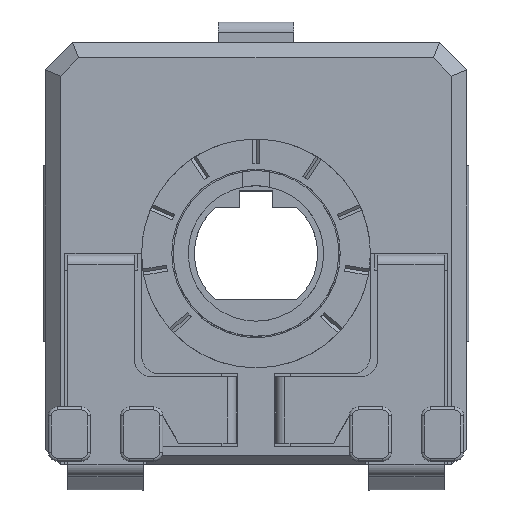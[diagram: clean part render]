
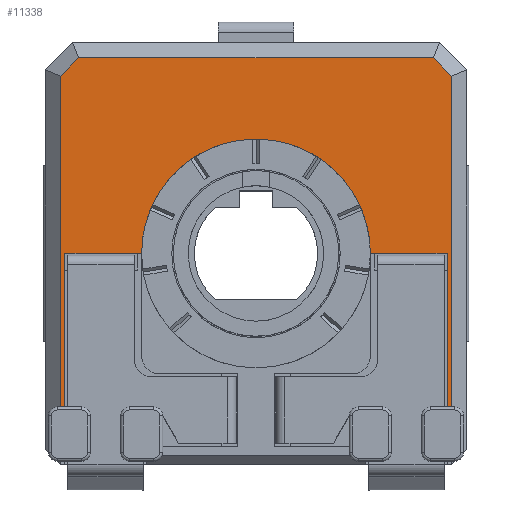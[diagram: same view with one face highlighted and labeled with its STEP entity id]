
A CAD part, top view. The second image highlights one B-rep face of the part: STEP entity #11338.
In plain terms, the highlighted planar face has unit normal (0, 0, 1).
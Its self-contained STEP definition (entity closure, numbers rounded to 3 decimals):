
#476=CIRCLE('',#12154,3.8);
#980=FACE_OUTER_BOUND('',#1561,.T.);
#1561=EDGE_LOOP('',(#9568,#9569,#9570,#9571,#9572,#9573,#9574,#9575,#9576,
#9577,#9578,#9579));
#2018=LINE('',#16238,#3305);
#2086=LINE('',#16491,#3373);
#2326=LINE('',#17230,#3613);
#2329=LINE('',#17235,#3616);
#2554=LINE('',#17795,#3841);
#2587=LINE('',#17922,#3874);
#2810=LINE('',#18469,#4097);
#2811=LINE('',#18472,#4098);
#2812=LINE('',#18473,#4099);
#2813=LINE('',#18476,#4100);
#2814=LINE('',#18477,#4101);
#3305=VECTOR('',#13074,10.);
#3373=VECTOR('',#13356,10.);
#3613=VECTOR('',#13878,10.);
#3616=VECTOR('',#13883,10.);
#3841=VECTOR('',#14256,10.);
#3874=VECTOR('',#14331,10.);
#4097=VECTOR('',#14848,10.);
#4098=VECTOR('',#14851,10.);
#4099=VECTOR('',#14852,10.);
#4100=VECTOR('',#14855,10.);
#4101=VECTOR('',#14856,10.);
#4520=VERTEX_POINT('',#16046);
#4575=VERTEX_POINT('',#16237);
#4652=VERTEX_POINT('',#16488);
#4653=VERTEX_POINT('',#16490);
#4700=VERTEX_POINT('',#16644);
#4701=VERTEX_POINT('',#16646);
#4854=VERTEX_POINT('',#17226);
#4855=VERTEX_POINT('',#17228);
#5020=VERTEX_POINT('',#17791);
#5046=VERTEX_POINT('',#17921);
#5177=VERTEX_POINT('',#18471);
#5178=VERTEX_POINT('',#18475);
#5729=EDGE_CURVE('',#4575,#4520,#2018,.T.);
#5855=EDGE_CURVE('',#4653,#4652,#2086,.T.);
#6159=EDGE_CURVE('',#4855,#4854,#2326,.T.);
#6162=EDGE_CURVE('',#4854,#4652,#2329,.T.);
#6408=EDGE_CURVE('',#4575,#5020,#2554,.T.);
#6453=EDGE_CURVE('',#5020,#5046,#2587,.T.);
#6703=EDGE_CURVE('',#5046,#4855,#2810,.T.);
#6704=EDGE_CURVE('',#4520,#5177,#2811,.T.);
#6705=EDGE_CURVE('',#5177,#4701,#2812,.T.);
#6706=EDGE_CURVE('',#4701,#4700,#476,.T.);
#6707=EDGE_CURVE('',#4700,#5178,#2813,.T.);
#6708=EDGE_CURVE('',#5178,#4653,#2814,.T.);
#9568=ORIENTED_EDGE('',*,*,#5729,.T.);
#9569=ORIENTED_EDGE('',*,*,#6704,.T.);
#9570=ORIENTED_EDGE('',*,*,#6705,.T.);
#9571=ORIENTED_EDGE('',*,*,#6706,.T.);
#9572=ORIENTED_EDGE('',*,*,#6707,.T.);
#9573=ORIENTED_EDGE('',*,*,#6708,.T.);
#9574=ORIENTED_EDGE('',*,*,#5855,.T.);
#9575=ORIENTED_EDGE('',*,*,#6162,.F.);
#9576=ORIENTED_EDGE('',*,*,#6159,.F.);
#9577=ORIENTED_EDGE('',*,*,#6703,.F.);
#9578=ORIENTED_EDGE('',*,*,#6453,.F.);
#9579=ORIENTED_EDGE('',*,*,#6408,.F.);
#10547=PLANE('',#12153);
#11338=ADVANCED_FACE('',(#980),#10547,.T.);
#12153=AXIS2_PLACEMENT_3D('',#18470,#14849,#14850);
#12154=AXIS2_PLACEMENT_3D('',#18474,#14853,#14854);
#13074=DIRECTION('',(1.,0.,0.));
#13356=DIRECTION('',(1.,0.,0.));
#13878=DIRECTION('',(0.707,-0.707,0.));
#13883=DIRECTION('',(0.,-1.,0.));
#14256=DIRECTION('',(0.,1.,0.));
#14331=DIRECTION('',(0.707,0.707,0.));
#14848=DIRECTION('',(1.,0.,0.));
#14849=DIRECTION('center_axis',(0.,0.,1.));
#14850=DIRECTION('ref_axis',(1.,0.,0.));
#14851=DIRECTION('',(0.,1.,0.));
#14852=DIRECTION('',(1.,0.,0.));
#14853=DIRECTION('center_axis',(0.,0.,-1.));
#14854=DIRECTION('ref_axis',(-1.,0.,0.));
#14855=DIRECTION('',(1.,0.,0.));
#14856=DIRECTION('',(0.,-1.,0.));
#16046=CARTESIAN_POINT('',(-13.817,-7.998,4.4));
#16237=CARTESIAN_POINT('',(-13.967,-7.998,4.4));
#16238=CARTESIAN_POINT('',(-10.217,-7.998,4.4));
#16488=CARTESIAN_POINT('',(-0.967,-7.998,4.4));
#16490=CARTESIAN_POINT('',(-1.117,-7.998,4.4));
#16491=CARTESIAN_POINT('',(-4.017,-7.998,4.4));
#16644=CARTESIAN_POINT('',(-3.667,-2.898,4.4));
#16646=CARTESIAN_POINT('',(-11.267,-2.898,4.4));
#17226=CARTESIAN_POINT('',(-0.967,2.994,4.4));
#17228=CARTESIAN_POINT('',(-1.574,3.602,4.4));
#17230=CARTESIAN_POINT('',(-1.271,3.298,4.4));
#17235=CARTESIAN_POINT('',(-0.967,0.602,4.4));
#17791=CARTESIAN_POINT('',(-13.967,2.994,4.4));
#17795=CARTESIAN_POINT('',(-13.967,-6.398,4.4));
#17921=CARTESIAN_POINT('',(-13.36,3.602,4.4));
#17922=CARTESIAN_POINT('',(-13.663,3.298,4.4));
#18469=CARTESIAN_POINT('',(-10.967,3.602,4.4));
#18470=CARTESIAN_POINT('Origin',(-7.467,-2.898,4.4));
#18471=CARTESIAN_POINT('',(-13.817,-2.898,4.4));
#18472=CARTESIAN_POINT('',(-13.817,-3.173,4.4));
#18473=CARTESIAN_POINT('',(-9.442,-2.898,4.4));
#18474=CARTESIAN_POINT('Origin',(-7.467,-2.898,4.4));
#18475=CARTESIAN_POINT('',(-1.117,-2.898,4.4));
#18476=CARTESIAN_POINT('',(-5.492,-2.898,4.4));
#18477=CARTESIAN_POINT('',(-1.117,-2.898,4.4));
